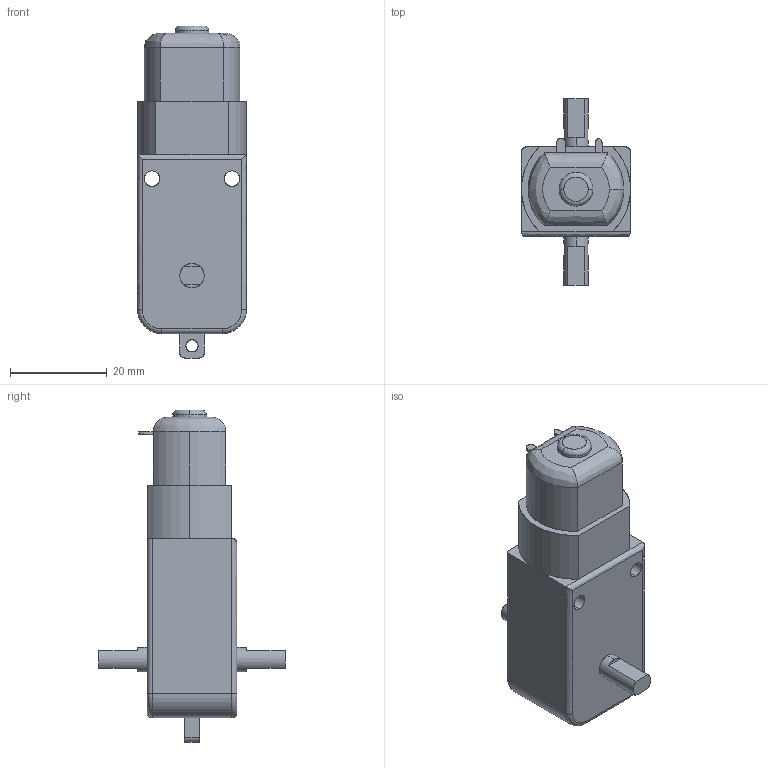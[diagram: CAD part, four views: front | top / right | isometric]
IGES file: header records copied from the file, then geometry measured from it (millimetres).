
Start section: SolidWorks IGES file using analytic representation for surfaces
Global section: file name: C:\Users\fablab-info\Desktop\Miroir cylindro-parabolique\IGS 3D\Moteur Jaune.IGS; native system: SolidWorks 2017; preprocessor: SolidWorks 2017; author: fablab-info; date: 190712.155042; units: millimetre
Bounding box: 22.5 x 38.5 x 68.5 mm (x, y, z)
Surface area: 5973.3 mm2 (no closed solid volume)
Topology: 0 solids, 0 shells, 82 faces, 967 edges, 967 vertices
Faces by surface type: bspline 47, revolution 35
